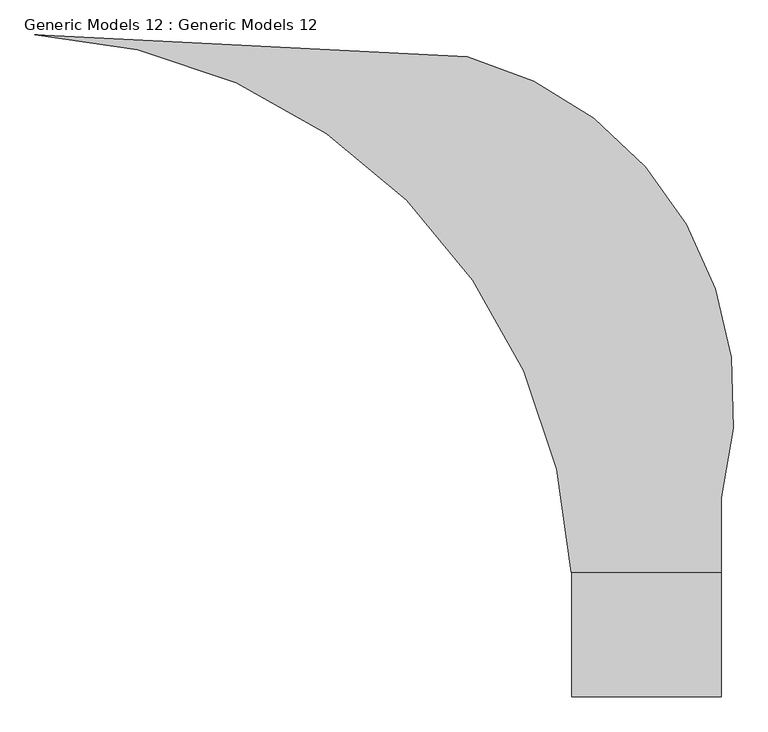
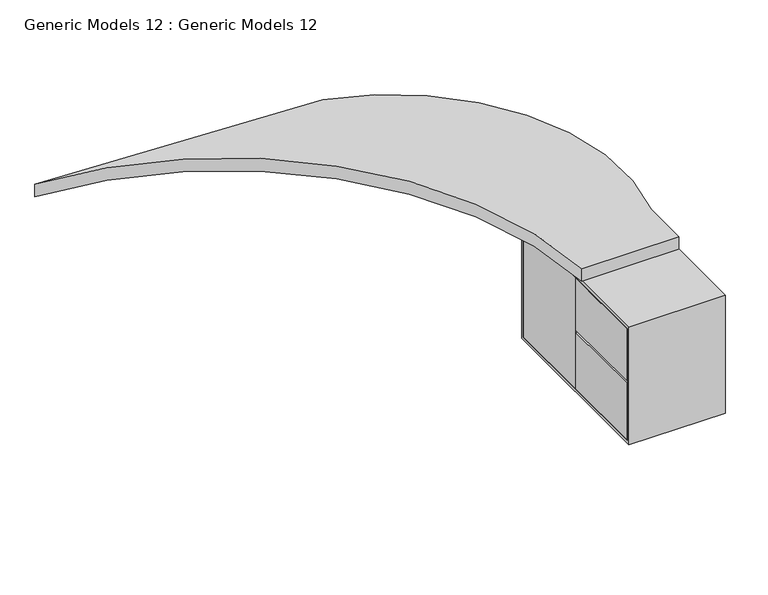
"""IFC4 building model written with IfcOpenShell, lengths in millimetres: proxy geometry, Generic Models 12 : Generic Models 12."""

from ifc_helpers import new_model, si_unit, frame, origin, place, context, project, spatial, polyline, circle_curve, outline, extrude, source, transform, mapped, element, save
from ifc_brep_helpers import plane_surface, cylinder_surface, revolved_surface, advanced_brep


def generic_models_12_generic_models_12_6bda398e(model_context):
    return source(origin(), model_context, "Body", "SolidModel", [
        extrude(outline(polyline([(99116.0211633, 16479.0043867), (99116.0211633, 16928.9859028), (99604.3502509, 16928.9859028), (99604.3502509, 16479.0043867), (99116.0211633, 16479.0043867)])), frame((0.0, 0.0, 71.4217012), z_axis=(0.0, 0.0, 1.0), x_axis=(1.0, 0.0, 0.0)), (0.0, 0.0, 1.0), 591.1643206),
        extrude(outline(polyline([(99116.0211633, 16028.4018137), (99116.0211633, 16472.9977307), (99604.3502509, 16472.9977307), (99604.3502509, 16028.4018137), (99116.0211633, 16028.4018137)])), frame((0.0, 0.0, 386.4217012), z_axis=(0.0, 0.0, 1.0), x_axis=(1.0, 0.0, 0.0)), (0.0, 0.0, 1.0), 276.1643206),
        extrude(outline(polyline([(99116.0211633, 16028.4018137), (99116.0211633, 16472.9977307), (99604.3502509, 16472.9977307), (99604.3502509, 16028.4018137), (99116.0211633, 16028.4018137)])), frame((0.0, 0.0, 71.4217012), z_axis=(0.0, 0.0, 1.0), x_axis=(1.0, 0.0, 0.0)), (0.0, 0.0, 1.0), 301.1643206),
        extrude(outline(polyline([(16008.4018137, 682.5860218), (16948.9977307, 682.5860218), (16948.9977307, 52.9217012), (16008.4018137, 52.9217012), (16008.4018137, 682.5860218)]), holes=[polyline([(16932.9977307, 666.5860218), (16024.4018137, 666.5860218), (16024.4018137, 68.9217012), (16932.9977307, 68.9217012), (16932.9977307, 666.5860218)])]), frame((99116.0211633, 0.0, 0.0), z_axis=(1.0, 0.0, 0.0), x_axis=(0.0, 1.0, 0.0)), (0.0, 0.0, 1.0), 488.3290876),
        advanced_brep(
        [(99604.3502509, 16659.9208191, 750.0), (98774.2645582, 18102.9724731, 750.0), (97358.9233844, 18174.0853751, 750.0), (99113.8282082, 16416.5358144, 750.0), (99604.3502509, 16416.5358144, 750.0), (99604.3502509, 16659.9208191, 682.5860218), (99604.3502509, 16416.5358144, 682.5860218), (99113.8282082, 16416.5358144, 682.5860218), (97358.9233844, 18174.0853751, 682.5860218), (98774.2645582, 18102.9724731, 682.5860218)],
        [
            (0, 1, circle_curve(frame((98476.3696855, 16971.3439317, 750.0), z_axis=(0.0, 0.0, 1.0), x_axis=(1.0, 0.0, 0.0)), 1170.1814009)),
            (1, 2),
            (2, 3, circle_curve(frame((97266.0919919, 16326.4868604, 750.0), z_axis=(0.0, 0.0, -1.0), x_axis=(1.0, 0.0, 0.0)), 1849.9291714)),
            (3, 4),
            (4, 0),
            (5, 6),
            (6, 7),
            (7, 8, circle_curve(frame((97266.0919919, 16326.4868604, 682.5860218), z_axis=(0.0, 0.0, 1.0), x_axis=(1.0, 0.0, 0.0)), 1849.9291714)),
            (8, 9),
            (9, 5, circle_curve(frame((98476.3696855, 16971.3439317, 682.5860218), z_axis=(0.0, 0.0, -1.0), x_axis=(1.0, 0.0, 0.0)), 1170.1814009)),
            (0, 5),
            (9, 1),
            (8, 2),
            (3, 7),
            (6, 4),
        ],
        [
            plane_surface(frame((99646.5510864, 16971.3439317, 750.0), z_axis=(0.0, 0.0, 1.0), x_axis=(0.0, 1.0, 0.0))),
            plane_surface(frame((99646.5510864, 16971.3439317, 682.5860218), z_axis=(0.0, 0.0, -1.0), x_axis=(0.0, -1.0, 0.0))),
            cylinder_surface(frame((98476.3696855, 16971.3439317, 682.5860218), z_axis=(0.0, 0.0, 1.0), x_axis=(1.0, 0.0, 0.0)), 1170.1814009),
            plane_surface(frame((98774.2645582, 18102.9724731, 750.0), z_axis=(0.05018105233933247, 0.9987401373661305, 0.0), x_axis=(0.0, 0.0, -1.0))),
            plane_surface(frame((99113.8282082, 16416.5358144, 750.0), z_axis=(0.0, -1.0, 0.0), x_axis=(0.0, 0.0, -1.0))),
            revolved_surface(polyline([(99116.0211633, 16326.4868604, 682.5860218), (99116.0211633, 16326.4868604, 750.0)]), (97266.0919919, 16326.4868604, 682.5860218), (0.0, 0.0, -1.0)),
            plane_surface(frame((99604.3502509, 16416.5358144, 750.0), z_axis=(1.0, 0.0, 0.0), x_axis=(0.0, 0.0, -1.0))),
        ],
        [
            (0, [[1, 2, 3, 4, 5]]),
            (1, [[6, 7, 8, 9, 10]]),
            (2, [[-1, 11, -10, 12]]),
            (3, [[-2, -12, -9, 13]]),
            (4, [[-4, 14, -7, 15]]),
            (5, [[-3, -13, -8, -14]]),
            (6, [[-5, -15, -6, -11]]),
        ],
    ),
    ])


if __name__ == "__main__":
    model = new_model("IFC4")
    model_context = context("Model", 3, world=origin())
    ifc_project = project(units=[si_unit("LENGTHUNIT", "METRE", prefix="MILLI")], contexts=[model_context])
    site = spatial("IfcSite", under=ifc_project)
    building = spatial("IfcBuilding", under=site)
    placement = place(None, origin())
    generic_models_12_generic_models_12_shape = generic_models_12_generic_models_12_6bda398e(model_context)
    element("IfcBuildingElementProxy", 1, Name="Generic Models 12 : Generic Models 12", ObjectType="Generic Models 12 : Generic Models 12", at=placement, inside=building, context=model_context, shape_type="MappedRepresentation", body=[
        mapped(generic_models_12_generic_models_12_shape, transform((0.0, 0.0, 0.0), x_axis=(1.0, 0.0, 0.0), y_axis=(0.0, 1.0, 0.0), z_axis=(0.0, 0.0, 1.0))),
    ])
    save(model, "model.ifc")
